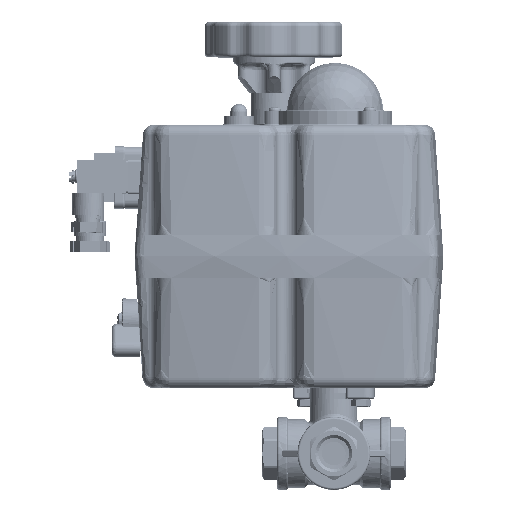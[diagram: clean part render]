
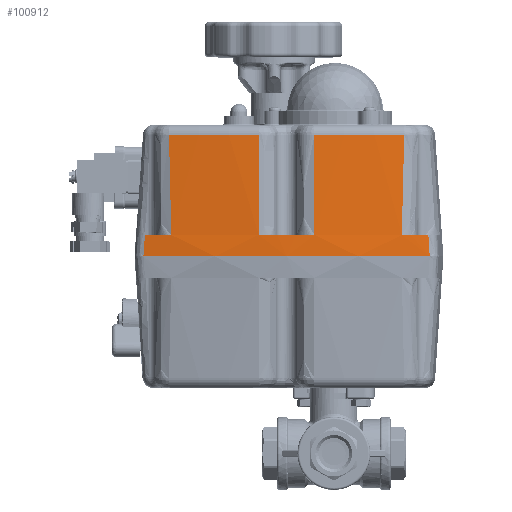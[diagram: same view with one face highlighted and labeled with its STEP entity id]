
A CAD part, top view. The second image highlights one B-rep face of the part: STEP entity #100912.
In plain terms, the highlighted conical face has half-angle 4 degrees and reference radius 403.75 mm.
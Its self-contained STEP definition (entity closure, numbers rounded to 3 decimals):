
#66753=CARTESIAN_POINT('',(-88.899,92.,50.243));
#66754=VERTEX_POINT('',#66753);
#67008=CARTESIAN_POINT('',(44.776,92.,50.244));
#67009=VERTEX_POINT('',#67008);
#67019=CARTESIAN_POINT('',(-22.061,91.999,-347.936));
#67020=DIRECTION('',(0.0,1.0,0.0));
#67021=DIRECTION('',(1.0,0.0,0.0));
#67022=AXIS2_PLACEMENT_3D('',#67019,#67020,#67021);
#67023=CIRCLE('',#67022,403.75);
#67024=EDGE_CURVE('',#66754,#67009,#67023,.T.);
#93259=CARTESIAN_POINT('',(-35.088,102.,54.904));
#93260=VERTEX_POINT('',#93259);
#93274=CARTESIAN_POINT('',(-9.034,102.,54.904));
#93275=VERTEX_POINT('',#93274);
#93276=CARTESIAN_POINT('',(-22.061,102.,-347.936));
#93277=DIRECTION('',(0.0,1.0,0.0));
#93278=DIRECTION('',(1.0,0.0,0.0));
#93279=AXIS2_PLACEMENT_3D('',#93276,#93277,#93278);
#93280=CIRCLE('',#93279,403.051);
#93281=EDGE_CURVE('',#93260,#93275,#93280,.T.);
#93633=CARTESIAN_POINT('',(44.133,102.,49.642));
#93634=VERTEX_POINT('',#93633);
#93669=CARTESIAN_POINT('',(44.133,102.,49.642));
#93670=CARTESIAN_POINT('',(44.313,99.204,49.81));
#93671=CARTESIAN_POINT('',(44.527,95.87,50.011));
#93672=CARTESIAN_POINT('',(44.741,92.537,50.211));
#93673=CARTESIAN_POINT('',(44.776,92.,50.244));
#93674=B_SPLINE_CURVE_WITH_KNOTS('',3,(#93669,#93670,#93671,#93672,#93673),.UNSPECIFIED.,.F.,.U.,(4,1,4),(5.021,13.441,15.06),.UNSPECIFIED.);
#93675=EDGE_CURVE('',#93634,#67009,#93674,.T.);
#93706=CARTESIAN_POINT('',(31.754,102.,51.506));
#93707=VERTEX_POINT('',#93706);
#93721=CARTESIAN_POINT('',(-22.061,102.,-347.936));
#93722=DIRECTION('',(0.0,1.0,0.0));
#93723=DIRECTION('',(1.0,0.0,0.0));
#93724=AXIS2_PLACEMENT_3D('',#93721,#93722,#93723);
#93725=CIRCLE('',#93724,403.051);
#93726=EDGE_CURVE('',#93707,#93634,#93725,.T.);
#93795=CARTESIAN_POINT('',(-88.192,102.,49.652));
#93796=VERTEX_POINT('',#93795);
#93831=CARTESIAN_POINT('',(-75.875,102.,51.506));
#93832=VERTEX_POINT('',#93831);
#93833=CARTESIAN_POINT('',(-22.061,102.,-347.936));
#93834=DIRECTION('',(0.0,1.0,0.0));
#93835=DIRECTION('',(1.0,0.0,0.0));
#93836=AXIS2_PLACEMENT_3D('',#93833,#93834,#93835);
#93837=CIRCLE('',#93836,403.051);
#93838=EDGE_CURVE('',#93796,#93832,#93837,.T.);
#93931=CARTESIAN_POINT('',(-88.899,92.,50.243));
#93932=CARTESIAN_POINT('',(-88.861,92.537,50.212));
#93933=CARTESIAN_POINT('',(-88.823,93.074,50.18));
#93934=CARTESIAN_POINT('',(-88.587,96.407,49.983));
#93935=CARTESIAN_POINT('',(-88.39,99.203,49.818));
#93936=CARTESIAN_POINT('',(-88.192,102.,49.652));
#93937=B_SPLINE_CURVE_WITH_KNOTS('',3,(#93931,#93932,#93933,#93934,#93935,#93936),.UNSPECIFIED.,.F.,.U.,(4,2,4),(5.024,6.642,15.066),.UNSPECIFIED.);
#93938=EDGE_CURVE('',#66754,#93796,#93937,.T.);
#100775=CARTESIAN_POINT('',(-76.971,148.848,48.05));
#100776=VERTEX_POINT('',#100775);
#100829=CARTESIAN_POINT('',(-75.875,102.,51.506));
#100830=CARTESIAN_POINT('',(-75.899,103.884,51.37));
#100831=CARTESIAN_POINT('',(-75.925,105.768,51.233));
#100832=CARTESIAN_POINT('',(-75.987,109.98,50.928));
#100833=CARTESIAN_POINT('',(-76.025,112.307,50.758));
#100834=CARTESIAN_POINT('',(-76.093,116.088,50.482));
#100835=CARTESIAN_POINT('',(-76.121,117.542,50.376));
#100836=CARTESIAN_POINT('',(-76.214,122.243,50.032));
#100837=CARTESIAN_POINT('',(-76.286,125.489,49.793));
#100838=CARTESIAN_POINT('',(-76.495,133.93,49.169));
#100839=CARTESIAN_POINT('',(-76.643,139.123,48.782));
#100840=CARTESIAN_POINT('',(-76.865,145.826,48.278));
#100841=CARTESIAN_POINT('',(-76.917,147.337,48.164));
#100842=CARTESIAN_POINT('',(-76.971,148.848,48.05));
#100843=B_SPLINE_CURVE_WITH_KNOTS('',3,(#100829,#100830,#100831,#100832,#100833,#100834,#100835,#100836,#100837,#100838,#100839,#100840,#100841,#100842),.UNSPECIFIED.,.F.,.U.,(4,2,2,2,2,2,4),(13.199,18.868,25.868,30.243,40.011,55.639,60.188),.UNSPECIFIED.);
#100844=EDGE_CURVE('',#93832,#100776,#100843,.T.);
#100849=CARTESIAN_POINT('',(-22.061,91.999,-347.936));
#100850=DIRECTION('',(0.,-1.0,0.));
#100851=DIRECTION('',(1.0,0.0,0.0));
#100852=AXIS2_PLACEMENT_3D('',#100849,#100850,#100851);
#100853=CONICAL_SURFACE('',#100852,403.75,4.);
#100854=CARTESIAN_POINT('',(-9.032,148.848,51.626));
#100855=VERTEX_POINT('',#100854);
#100856=CARTESIAN_POINT('',(32.849,148.848,48.05));
#100857=VERTEX_POINT('',#100856);
#100858=CARTESIAN_POINT('',(-22.061,148.848,-347.936));
#100859=DIRECTION('',(0.,1.0,0.));
#100860=DIRECTION('',(0.085,0.,0.996));
#100861=AXIS2_PLACEMENT_3D('',#100858,#100859,#100860);
#100862=CIRCLE('',#100861,399.775);
#100863=EDGE_CURVE('',#100855,#100857,#100862,.T.);
#100864=ORIENTED_EDGE('',*,*,#100863,.F.);
#100865=CARTESIAN_POINT('',(-9.034,102.,54.904));
#100866=DIRECTION('',(0.,0.998,-0.07));
#100867=VECTOR('',#100866,46.963);
#100868=LINE('',#100865,#100867);
#100869=EDGE_CURVE('',#93275,#100855,#100868,.T.);
#100870=ORIENTED_EDGE('',*,*,#100869,.F.);
#100871=ORIENTED_EDGE('',*,*,#93281,.F.);
#100872=CARTESIAN_POINT('',(-35.09,148.848,51.626));
#100873=VERTEX_POINT('',#100872);
#100874=CARTESIAN_POINT('',(-35.09,148.848,51.626));
#100875=DIRECTION('',(0.,-0.998,0.07));
#100876=VECTOR('',#100875,46.963);
#100877=LINE('',#100874,#100876);
#100878=EDGE_CURVE('',#100873,#93260,#100877,.T.);
#100879=ORIENTED_EDGE('',*,*,#100878,.F.);
#100880=CARTESIAN_POINT('',(-22.061,148.848,-347.936));
#100881=DIRECTION('',(0.,1.0,0.));
#100882=DIRECTION('',(-0.085,0.,0.996));
#100883=AXIS2_PLACEMENT_3D('',#100880,#100881,#100882);
#100884=CIRCLE('',#100883,399.775);
#100885=EDGE_CURVE('',#100776,#100873,#100884,.T.);
#100886=ORIENTED_EDGE('',*,*,#100885,.F.);
#100887=ORIENTED_EDGE('',*,*,#100844,.F.);
#100888=ORIENTED_EDGE('',*,*,#93838,.F.);
#100889=ORIENTED_EDGE('',*,*,#93938,.F.);
#100890=ORIENTED_EDGE('',*,*,#67024,.T.);
#100891=ORIENTED_EDGE('',*,*,#93675,.F.);
#100892=ORIENTED_EDGE('',*,*,#93726,.F.);
#100893=CARTESIAN_POINT('',(32.849,148.848,48.05));
#100894=CARTESIAN_POINT('',(32.728,145.473,48.305));
#100895=CARTESIAN_POINT('',(32.618,142.097,48.558));
#100896=CARTESIAN_POINT('',(32.448,136.421,48.982));
#100897=CARTESIAN_POINT('',(32.383,134.121,49.154));
#100898=CARTESIAN_POINT('',(32.285,130.383,49.431));
#100899=CARTESIAN_POINT('',(32.249,128.945,49.537));
#100900=CARTESIAN_POINT('',(32.137,124.261,49.883));
#100901=CARTESIAN_POINT('',(32.066,121.015,50.122));
#100902=CARTESIAN_POINT('',(31.903,112.573,50.74));
#100903=CARTESIAN_POINT('',(31.821,107.377,51.117));
#100904=CARTESIAN_POINT('',(31.755,102.121,51.497));
#100905=CARTESIAN_POINT('',(31.754,102.06,51.502));
#100906=CARTESIAN_POINT('',(31.754,102.,51.506));
#100907=B_SPLINE_CURVE_WITH_KNOTS('',3,(#100893,#100894,#100895,#100896,#100897,#100898,#100899,#100900,#100901,#100902,#100903,#100904,#100905,#100906),.UNSPECIFIED.,.F.,.U.,(4,2,2,2,2,2,4),(17.956,28.117,35.039,39.365,49.133,64.762,64.945),.UNSPECIFIED.);
#100908=EDGE_CURVE('',#100857,#93707,#100907,.T.);
#100909=ORIENTED_EDGE('',*,*,#100908,.F.);
#100910=EDGE_LOOP('',(#100864,#100870,#100871,#100879,#100886,#100887,#100888,#100889,#100890,#100891,#100892,#100909));
#100911=FACE_OUTER_BOUND('',#100910,.T.);
#100912=ADVANCED_FACE('',(#100911),#100853,.T.);
